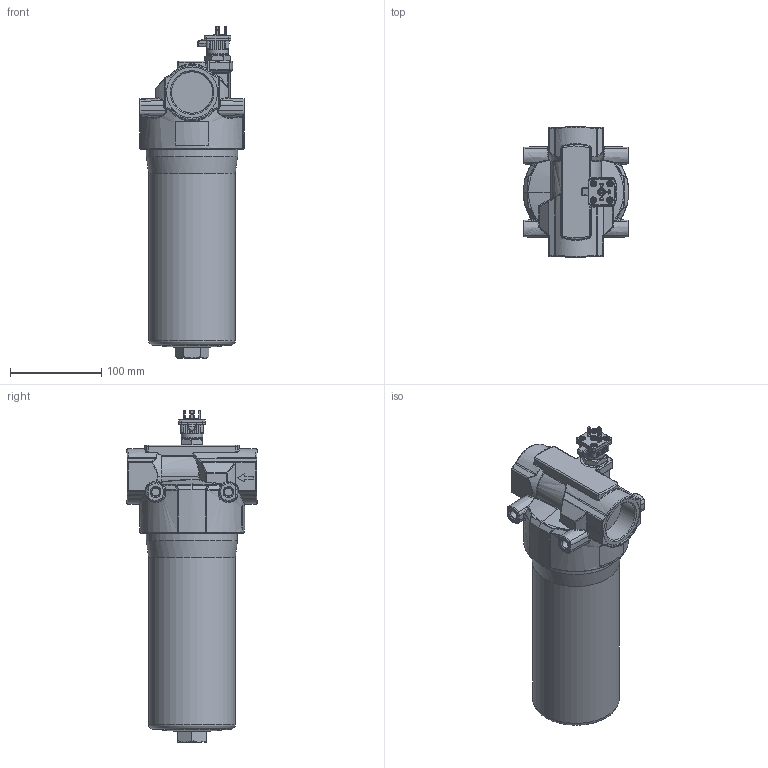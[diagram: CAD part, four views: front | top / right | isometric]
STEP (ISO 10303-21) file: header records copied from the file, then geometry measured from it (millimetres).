
FILE_DESCRIPTION((''),'2;1');
FILE_NAME('U:\Users\i.maeder\34422500D232-286ED8.stp', '2016-10-25T08:20:48',('User'),('SDRC'),'I-DEAS Master Series 9','UNIX', 'Yes');
FILE_SCHEMA(('AUTOMOTIVE_DESIGN { 1 0 10303 214 1 1 1 1 }'));
Length unit declared in the file: millimetre
Products named in the file (1): 34422500
Bounding box: 116 x 143 x 363.9 mm (x, y, z)
Volume: 2446152.5 mm3; surface area: 141037.3 mm2
Topology: 1 solids, 3 shells, 1313 faces, 3477 edges, 2175 vertices
Faces by surface type: bspline 1313
Entity records: 54404 total; most frequent: CARTESIAN_POINT 34737, ORIENTED_EDGE 6878, EDGE_CURVE 3439, VERTEX_POINT 2168, B_SPLINE_CURVE_WITH_KNOTS 2099, EDGE_LOOP 1355, FACE_OUTER_BOUND 1313, ADVANCED_FACE 1313
